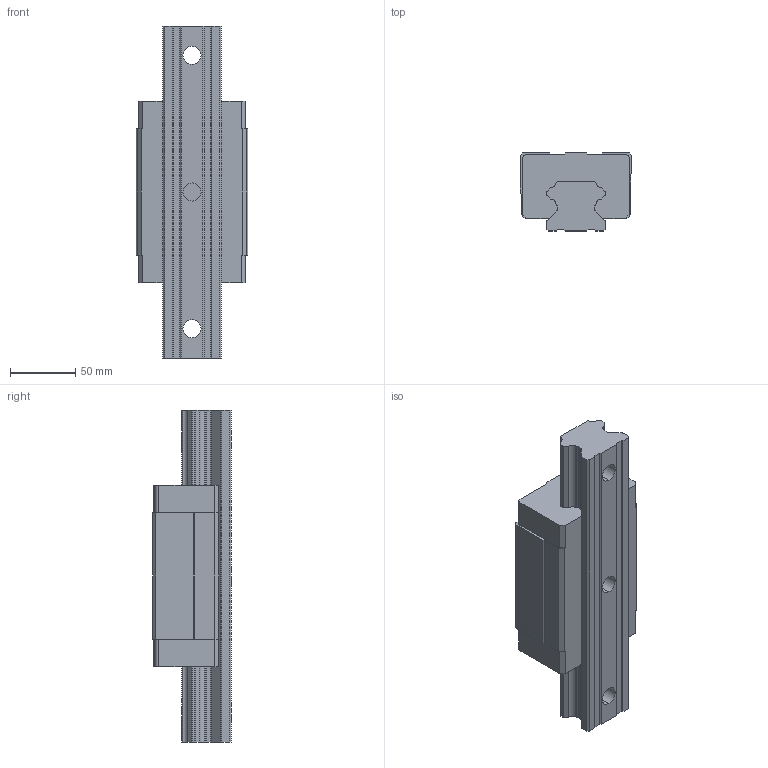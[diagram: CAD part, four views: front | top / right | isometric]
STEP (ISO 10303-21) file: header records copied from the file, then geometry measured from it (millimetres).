
FILE_DESCRIPTION (( 'STEP AP214' ), '1' );
FILE_NAME ('2.1036 Lineaarikelkka HGL45CA.STEP', '2025-09-19T06:35:21', ( '' ), ( '' ), 'SwSTEP 2.0', 'SolidWorks 2025', '' );
FILE_SCHEMA (( 'AUTOMOTIVE_DESIGN' ));
Length unit declared in the file: millimetre
Products named in the file (1): 2.1036 Lineaarikelkka HGL45CA
Bounding box: 86 x 60 x 255 mm (x, y, z)
Volume: 773800.6 mm3; surface area: 106171.7 mm2
Topology: 2 solids, 2 shells, 145 faces, 402 edges, 268 vertices
Faces by surface type: plane 95, cylinder 50
Entity records: 6275 total; most frequent: CARTESIAN_POINT 816, ORIENTED_EDGE 804, DIRECTION 794, EDGE_CURVE 402, VECTOR 302, LINE 302, VERTEX_POINT 268, AXIS2_PLACEMENT_3D 246
